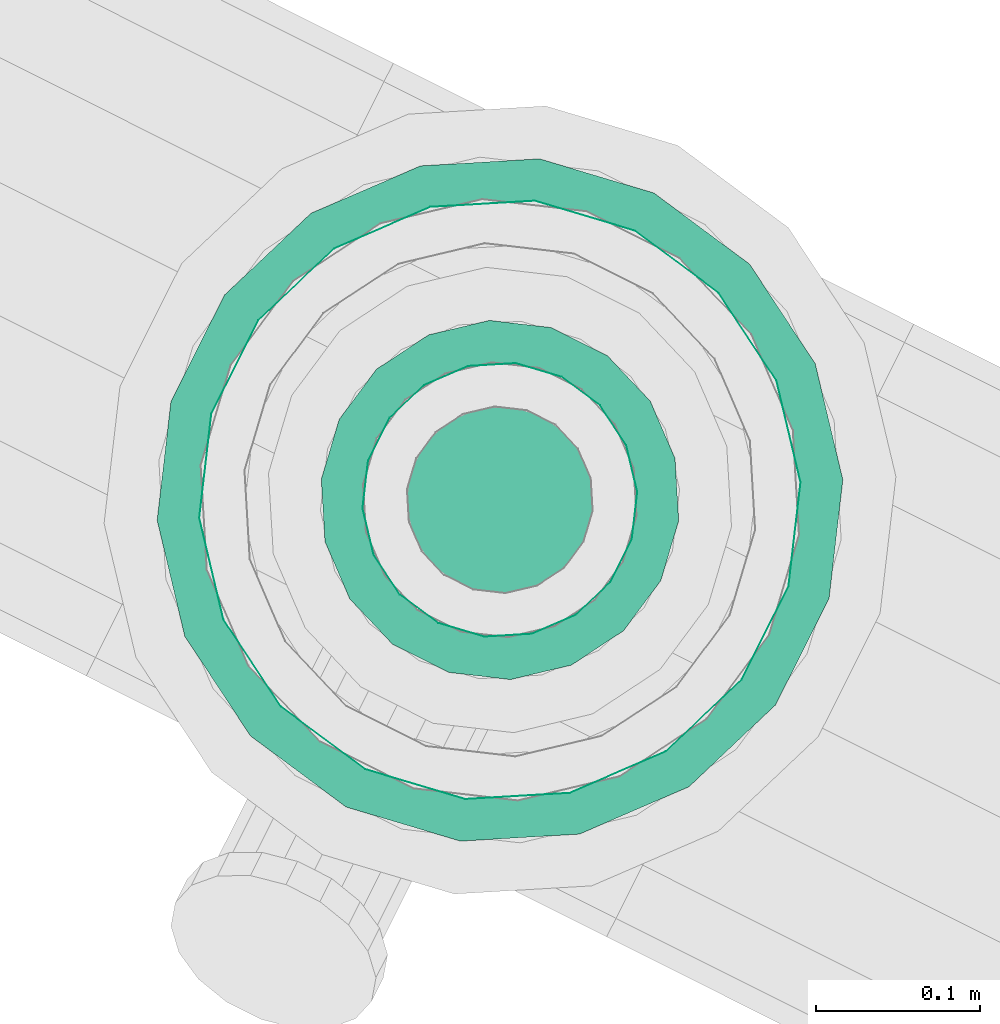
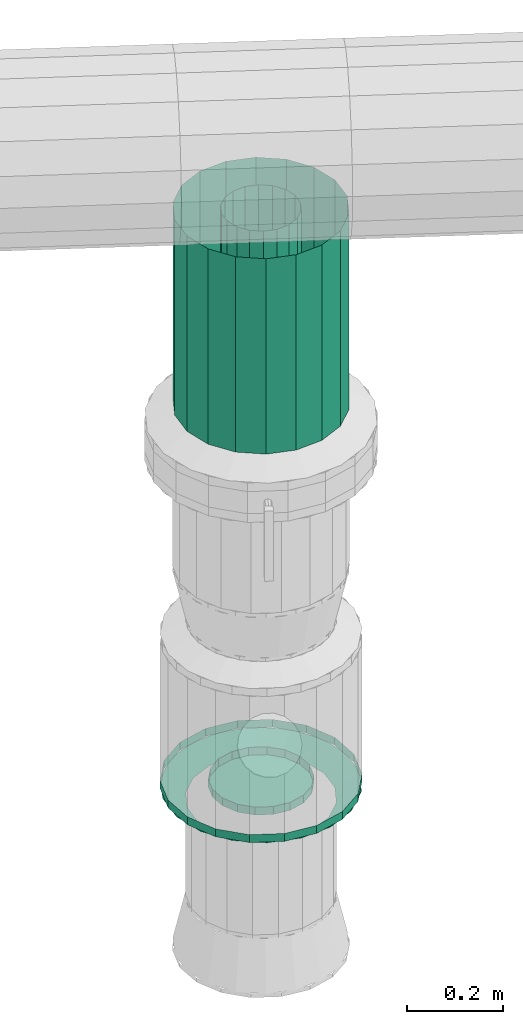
# One storey, part 61 of 152: 1 flow fitting, 1 flow segment.
"""IFC2X3 building model written with IfcOpenShell, lengths in metres."""

from ifc_helpers import new_model, si_unit, derived_unit, direction, frame, origin, place, context, subcontext, project, spatial, face_set, surface_model, source, transform, mapped, material, type_object, type_shapes, element, save


model = new_model("IFC2X3")

# Units and contexts
model_context = context("Model", 3, precision=5.2338327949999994e-05, world=origin(), true_north=direction((0.0, 1.0)))
body_context = subcontext(model_context, "Body", "Model", "MODEL_VIEW")
ifc_project = project(units=[si_unit("LENGTHUNIT", "METRE"), si_unit("AREAUNIT", "SQUARE_METRE"), si_unit("VOLUMEUNIT", "CUBIC_METRE"), si_unit("MASSUNIT", "GRAM", prefix="KILO"), si_unit("PLANEANGLEUNIT", "RADIAN"), derived_unit("THERMALTRANSMITTANCEUNIT", [(si_unit("MASSUNIT", "GRAM", prefix="KILO"), 1), (si_unit("THERMODYNAMICTEMPERATUREUNIT", "KELVIN"), -1), (si_unit("TIMEUNIT", "SECOND"), -3)])], contexts=[model_context])

# Site, building, storey
site_placement = place(None, frame((0.0, 0.0, 0.0), z_axis=(0.0, 0.0, 1.0), x_axis=(0.8939966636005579, -0.4480736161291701, 0.0)))
site = spatial("IfcSite", under=ifc_project, at=site_placement, Name="Default", CompositionType="ELEMENT")
building_placement = place(site_placement, origin())
building = spatial("IfcBuilding", under=site, at=building_placement, CompositionType="ELEMENT")
storey_placement = place(building_placement, frame((0.0, 0.0, 2.7499999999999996)))
storey = spatial("IfcBuildingStorey", under=building, at=storey_placement, Name="1. Obergeschoss", CompositionType="ELEMENT", Elevation=2.7499999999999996)

# Flow fitting
ifc_material = material(Name="IfcSurfaceStyle #1741")
distribution_element_type_1 = type_object("IfcDistributionElementType", Name="Flansch 614520:Flansch 614520", material=ifc_material)
shared_shape_1 = source(origin(), body_context, "Body", "SurfaceModel", [
    surface_model("IfcFaceBasedSurfaceModel", [(25.43985543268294, 8.402565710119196, 3.461870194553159), (25.459401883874, 8.406012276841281, 3.461870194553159), (25.462257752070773, 8.398165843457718, 3.493870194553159), (25.43985543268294, 8.394215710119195, 3.493870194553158), (25.47659074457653, 8.415936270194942, 3.4618701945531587), (25.48195802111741, 8.409539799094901, 3.493870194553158), (25.48934878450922, 8.431140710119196, 3.4618701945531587), (25.496580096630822, 8.426965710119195, 3.4938701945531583), (25.4961371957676, 8.44979171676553, 3.461870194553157), (25.504360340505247, 8.44834175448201, 3.4938701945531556), (25.496137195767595, 8.469639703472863, 3.461870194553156), (25.504360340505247, 8.471089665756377, 3.493870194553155), (25.48934878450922, 8.488290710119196, 3.4618701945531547), (25.496580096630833, 8.492465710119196, 3.4938701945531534), (25.476590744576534, 8.503495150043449, 3.461870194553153), (25.481958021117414, 8.509891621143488, 3.493870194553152), (25.459401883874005, 8.51341914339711, 3.4618701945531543), (25.462257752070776, 8.521265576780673, 3.493870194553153), (25.439855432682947, 8.516865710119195, 3.4618701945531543), (25.439855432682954, 8.525215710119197, 3.493870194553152), (25.403120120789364, 8.50349515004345, 3.4618701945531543), (25.390362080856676, 8.4882907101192, 3.4618701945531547), (25.38313076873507, 8.492465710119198, 3.4938701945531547), (25.39775284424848, 8.509891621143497, 3.4938701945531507), (25.3835736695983, 8.469639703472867, 3.4618701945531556), (25.37535052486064, 8.471089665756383, 3.4938701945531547), (25.3835736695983, 8.449791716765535, 3.4618701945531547), (25.375350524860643, 8.448341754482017, 3.4938701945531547), (25.390362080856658, 8.431140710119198, 3.4618701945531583), (25.383130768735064, 8.4269657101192, 3.493870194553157), (25.40312012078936, 8.415936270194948, 3.4618701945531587), (25.397752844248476, 8.409539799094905, 3.493870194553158), (25.42030898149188, 8.406012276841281, 3.4618701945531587), (25.417453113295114, 8.398165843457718, 3.4938701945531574), (25.329855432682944, 8.459715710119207, 3.4938701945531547), (25.336489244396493, 8.422093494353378, 3.493870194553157), (25.336489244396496, 8.422093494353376, 3.5138701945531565), (25.329855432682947, 8.4597157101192, 3.5138701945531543), (25.355590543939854, 8.38900907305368, 3.493870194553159), (25.355590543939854, 8.389009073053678, 3.5138701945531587), (25.38485543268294, 8.36445291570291, 3.49387019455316), (25.38485543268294, 8.364452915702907, 3.51387019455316), (25.420754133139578, 8.351386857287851, 3.493870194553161), (25.420754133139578, 8.351386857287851, 3.513870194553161), (25.45895673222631, 8.351386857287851, 3.493870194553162), (25.45895673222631, 8.351386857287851, 3.513870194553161), (25.494855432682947, 8.364452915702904, 3.4938701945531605), (25.494855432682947, 8.364452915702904, 3.513870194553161), (25.52412032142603, 8.389009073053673, 3.4938701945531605), (25.524120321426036, 8.389009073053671, 3.51387019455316), (25.543221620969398, 8.42209349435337, 3.493870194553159), (25.543221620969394, 8.422093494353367, 3.5138701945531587), (25.54985543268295, 8.459715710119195, 3.493870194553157), (25.54985543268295, 8.45971571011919, 3.513870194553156), (25.5432216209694, 8.49733792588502, 3.4938701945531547), (25.5432216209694, 8.497337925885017, 3.5138701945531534), (25.52412032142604, 8.530422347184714, 3.4938701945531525), (25.52412032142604, 8.530422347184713, 3.513870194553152), (25.49485543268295, 8.554978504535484, 3.4938701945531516), (25.494855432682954, 8.554978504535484, 3.5138701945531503), (25.458956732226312, 8.568044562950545, 3.4938701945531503), (25.458956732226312, 8.568044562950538, 3.513870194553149), (25.42075413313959, 8.568044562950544, 3.49387019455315), (25.42075413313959, 8.56804456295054, 3.513870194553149), (25.384855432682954, 8.55497850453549, 3.49387019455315), (25.384855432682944, 8.554978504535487, 3.513870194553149), (25.35559054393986, 8.530422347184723, 3.4938701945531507), (25.355590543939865, 8.530422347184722, 3.5138701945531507), (25.336489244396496, 8.497337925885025, 3.4938701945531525), (25.336489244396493, 8.497337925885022, 3.513870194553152), (25.439855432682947, 8.459715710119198, 3.493870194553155), (25.439855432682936, 8.302565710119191, 3.461870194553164), (25.493603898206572, 8.312043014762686, 3.4618701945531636), (25.51167966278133, 8.26238025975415, 3.4938701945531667), (25.439855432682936, 8.249715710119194, 3.493870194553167), (25.540869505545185, 8.339331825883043, 3.4618701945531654), (25.574840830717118, 8.298846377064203, 3.493870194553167), (25.57595132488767, 8.38114071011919, 3.461870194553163), (25.621720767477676, 8.354715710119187, 3.493870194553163), (25.594617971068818, 8.432426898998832, 3.461870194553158), (25.64666506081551, 8.423249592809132, 3.4938701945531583), (25.594617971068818, 8.48700452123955, 3.461870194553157), (25.64666506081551, 8.496181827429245, 3.4938701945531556), (25.575951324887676, 8.538290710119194, 3.461870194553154), (25.621720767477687, 8.564715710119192, 3.4938701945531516), (25.54086950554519, 8.580099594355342, 3.461870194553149), (25.57484083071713, 8.62058504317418, 3.493870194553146), (25.493603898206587, 8.607388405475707, 3.461870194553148), (25.511679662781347, 8.65705116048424, 3.4938701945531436), (25.43985543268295, 8.616865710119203, 3.461870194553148), (25.439855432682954, 8.669715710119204, 3.4938701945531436), (25.38610696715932, 8.607388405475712, 3.4618701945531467), (25.36803120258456, 8.657051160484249, 3.493870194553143), (25.33884135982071, 8.580099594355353, 3.4618701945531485), (25.304870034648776, 8.620585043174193, 3.4938701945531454), (25.30375954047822, 8.538290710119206, 3.461870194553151), (25.257990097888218, 8.564715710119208, 3.493870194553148), (25.28509289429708, 8.487004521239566, 3.461870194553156), (25.233045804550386, 8.496181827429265, 3.4938701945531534), (25.28509289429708, 8.432426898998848, 3.4618701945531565), (25.233045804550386, 8.42324959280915, 3.493870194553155), (25.303759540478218, 8.381140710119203, 3.4618701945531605), (25.257990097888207, 8.354715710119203, 3.4938701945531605), (25.3388413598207, 8.339331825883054, 3.4618701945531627), (25.30487003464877, 8.298846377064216, 3.493870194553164), (25.386106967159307, 8.312043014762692, 3.4618701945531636), (25.368031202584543, 8.262380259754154, 3.493870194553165), (25.229855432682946, 8.459715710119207, 3.4938701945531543), (25.242519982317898, 8.387891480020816, 3.4938701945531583), (25.242519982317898, 8.38789148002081, 3.513870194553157), (25.229855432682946, 8.459715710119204, 3.5138701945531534), (25.27898609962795, 8.324730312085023, 3.493870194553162), (25.278986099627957, 8.324730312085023, 3.513870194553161), (25.334855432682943, 8.277850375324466, 3.493870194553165), (25.334855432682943, 8.277850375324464, 3.5138701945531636), (25.403389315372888, 8.25290608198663, 3.4938701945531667), (25.403389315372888, 8.25290608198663, 3.5138701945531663), (25.476321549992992, 8.252906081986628, 3.4938701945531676), (25.476321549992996, 8.252906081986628, 3.5138701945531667), (25.544855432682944, 8.277850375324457, 3.4938701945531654), (25.544855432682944, 8.277850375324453, 3.5138701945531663), (25.60072476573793, 8.324730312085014, 3.493870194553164), (25.60072476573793, 8.324730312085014, 3.513870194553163), (25.637190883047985, 8.387891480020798, 3.493870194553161), (25.637190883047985, 8.387891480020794, 3.513870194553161), (25.649855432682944, 8.459715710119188, 3.493870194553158), (25.649855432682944, 8.459715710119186, 3.5138701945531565), (25.637190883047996, 8.53153994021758, 3.4938701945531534), (25.63719088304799, 8.53153994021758, 3.513870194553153), (25.600724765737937, 8.594701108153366, 3.4938701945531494), (25.60072476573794, 8.594701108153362, 3.513870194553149), (25.54485543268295, 8.641581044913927, 3.4938701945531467), (25.54485543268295, 8.641581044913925, 3.5138701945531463), (25.476321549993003, 8.666525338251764, 3.4938701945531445), (25.476321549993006, 8.666525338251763, 3.513870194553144), (25.403389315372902, 8.666525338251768, 3.4938701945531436), (25.403389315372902, 8.666525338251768, 3.5138701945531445), (25.334855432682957, 8.64158104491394, 3.493870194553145), (25.334855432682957, 8.64158104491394, 3.513870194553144), (25.278986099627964, 8.594701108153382, 3.493870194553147), (25.27898609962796, 8.594701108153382, 3.5138701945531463), (25.242519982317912, 8.531539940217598, 3.4938701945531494), (25.242519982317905, 8.531539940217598, 3.5138701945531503), (25.420308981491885, 8.513419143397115, 3.461870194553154), (25.41745311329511, 8.521265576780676, 3.4938701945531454)], [face_set([[[0, 1, 2, 3]], [[1, 4, 5, 2]], [[4, 6, 7, 5]], [[6, 8, 9, 7]], [[8, 10, 11, 9]], [[10, 12, 13, 11]], [[12, 14, 15, 13]], [[14, 16, 17, 15]], [[16, 18, 19, 17]], [[20, 21, 22, 23]], [[21, 24, 25, 22]], [[24, 26, 27, 25]], [[26, 28, 29, 27]], [[28, 30, 31, 29]], [[30, 32, 33, 31]], [[32, 0, 3, 33]], [[34, 35, 36, 37]], [[35, 38, 39, 36]], [[38, 40, 41, 39]], [[40, 42, 43, 41]], [[42, 44, 45, 43]], [[44, 46, 47, 45]], [[46, 48, 49, 47]], [[48, 50, 51, 49]], [[50, 52, 53, 51]], [[52, 54, 55, 53]], [[54, 56, 57, 55]], [[56, 58, 59, 57]], [[58, 60, 61, 59]], [[60, 62, 63, 61]], [[62, 64, 65, 63]], [[64, 66, 67, 65]], [[66, 68, 69, 67]], [[68, 34, 37, 69]], [[70, 35, 34]], [[70, 38, 35]], [[70, 40, 38]], [[70, 42, 40]], [[70, 44, 42]], [[70, 46, 44]], [[70, 48, 46]], [[70, 50, 48]], [[70, 52, 50]], [[70, 54, 52]], [[70, 56, 54]], [[70, 58, 56]], [[70, 60, 58]], [[70, 62, 60]], [[70, 64, 62]], [[70, 66, 64]], [[70, 68, 66]], [[70, 34, 68]], [[71, 72, 73, 74]], [[72, 75, 76, 73]], [[75, 77, 78, 76]], [[77, 79, 80, 78]], [[79, 81, 82, 80]], [[81, 83, 84, 82]], [[83, 85, 86, 84]], [[85, 87, 88, 86]], [[87, 89, 90, 88]], [[89, 91, 92, 90]], [[91, 93, 94, 92]], [[93, 95, 96, 94]], [[95, 97, 98, 96]], [[97, 99, 100, 98]], [[99, 101, 102, 100]], [[101, 103, 104, 102]], [[103, 105, 106, 104]], [[105, 71, 74, 106]], [[107, 108, 109, 110]], [[108, 111, 112, 109]], [[111, 113, 114, 112]], [[113, 115, 116, 114]], [[115, 117, 118, 116]], [[117, 119, 120, 118]], [[119, 121, 122, 120]], [[121, 123, 124, 122]], [[123, 125, 126, 124]], [[125, 127, 128, 126]], [[127, 129, 130, 128]], [[129, 131, 132, 130]], [[131, 133, 134, 132]], [[133, 135, 136, 134]], [[135, 137, 138, 136]], [[137, 139, 140, 138]], [[139, 141, 142, 140]], [[141, 107, 110, 142]], [[18, 143, 144, 19]], [[143, 20, 23, 144]]])]),
])
type_shapes(distribution_element_type_1, [shared_shape_1])
flow_fitting_placement = place(storey_placement, frame((0.0, 0.0, -2.7499999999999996)))
element("IfcFlowFitting", 1, at=flow_fitting_placement, inside=storey, type_object=distribution_element_type_1, material=ifc_material, Name="Flansch", ObjectType="Flansch", context=body_context, shape_type="MappedRepresentation", body=[
    mapped(shared_shape_1, transform((0.0, 0.0, 0.0), scale=1.0)),
])

# Flow segment
distribution_element_type_2 = type_object("IfcDistributionElementType", Name="Stahlrohr nach DIN 2448 614582:Stahlrohr nach DIN 2448 614582", material=ifc_material)
shared_shape_2 = source(origin(), body_context, "Body", "SurfaceModel", [
    surface_model("IfcFaceBasedSurfaceModel", [(25.439855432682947, 8.37556571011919, 4.954997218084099), (25.41107443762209, 8.380640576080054, 4.954997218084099), (25.411074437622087, 8.380640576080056, 4.460183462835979), (25.43985543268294, 8.37556571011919, 4.460183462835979), (25.385764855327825, 8.395253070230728, 4.954997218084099), (25.385764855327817, 8.395253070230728, 4.460183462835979), (25.366979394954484, 8.417640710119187, 4.954997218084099), (25.366979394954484, 8.417640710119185, 4.460183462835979), (25.356983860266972, 8.44510321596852, 4.954997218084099), (25.35698386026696, 8.445103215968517, 4.460183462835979), (25.35698386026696, 8.474328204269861, 4.954997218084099), (25.35698386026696, 8.47432820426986, 4.460183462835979), (25.366979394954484, 8.501790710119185, 4.954997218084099), (25.366979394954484, 8.501790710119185, 4.460183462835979), (25.385764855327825, 8.524178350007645, 4.954997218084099), (25.385764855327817, 8.524178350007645, 4.460183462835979), (25.41107443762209, 8.538790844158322, 4.954997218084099), (25.411074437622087, 8.538790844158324, 4.460183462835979), (25.439855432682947, 8.543865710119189, 4.954997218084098), (25.439855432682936, 8.543865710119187, 4.460183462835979), (25.4686364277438, 8.53879084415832, 4.954997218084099), (25.4686364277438, 8.53879084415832, 4.460183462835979), (25.493946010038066, 8.52417835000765, 4.954997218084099), (25.493946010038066, 8.524178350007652, 4.460183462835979), (25.512731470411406, 8.50179071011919, 4.954997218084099), (25.512731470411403, 8.50179071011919, 4.460183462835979), (25.522727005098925, 8.474328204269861, 4.954997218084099), (25.522727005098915, 8.474328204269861, 4.460183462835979), (25.522727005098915, 8.445103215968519, 4.954997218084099), (25.522727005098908, 8.44510321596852, 4.460183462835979), (25.512731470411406, 8.417640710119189, 4.954997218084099), (25.512731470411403, 8.41764071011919, 4.460183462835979), (25.493946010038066, 8.395253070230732, 4.954997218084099), (25.493946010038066, 8.395253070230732, 4.460183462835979), (25.4686364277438, 8.38064057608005, 4.954997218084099), (25.468636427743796, 8.380640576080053, 4.460183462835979), (25.439855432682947, 8.275565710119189, 4.954997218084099), (25.376872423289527, 8.286671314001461, 4.954997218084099), (25.37687242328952, 8.286671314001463, 4.460183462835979), (25.439855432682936, 8.275565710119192, 4.460183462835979), (25.32148609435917, 8.318648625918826, 4.954997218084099), (25.321486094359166, 8.318648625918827, 4.460183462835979), (25.28037685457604, 8.367640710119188, 4.954997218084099), (25.28037685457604, 8.367640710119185, 4.460183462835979), (25.258503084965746, 8.427738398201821, 4.954997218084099), (25.258503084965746, 8.427738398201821, 4.460183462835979), (25.258503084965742, 8.491693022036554, 4.954997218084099), (25.25850308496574, 8.491693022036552, 4.460183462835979), (25.280376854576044, 8.551790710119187, 4.954997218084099), (25.28037685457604, 8.551790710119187, 4.460183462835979), (25.321486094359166, 8.600782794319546, 4.954997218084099), (25.32148609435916, 8.600782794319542, 4.460183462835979), (25.376872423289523, 8.632760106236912, 4.954997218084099), (25.376872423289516, 8.63276010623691, 4.460183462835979), (25.439855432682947, 8.64386571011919, 4.954997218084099), (25.439855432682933, 8.64386571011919, 4.460183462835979), (25.502838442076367, 8.632760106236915, 4.954997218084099), (25.50283844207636, 8.632760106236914, 4.460183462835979), (25.55822477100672, 8.600782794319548, 4.954997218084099), (25.558224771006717, 8.600782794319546, 4.460183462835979), (25.599334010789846, 8.551790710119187, 4.954997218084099), (25.599334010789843, 8.551790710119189, 4.460183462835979), (25.621207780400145, 8.491693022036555, 4.954997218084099), (25.621207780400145, 8.49169302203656, 4.460183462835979), (25.62120778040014, 8.427738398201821, 4.954997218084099), (25.62120778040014, 8.427738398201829, 4.460183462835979), (25.599334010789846, 8.36764071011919, 4.954997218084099), (25.599334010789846, 8.367640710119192, 4.460183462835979), (25.55822477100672, 8.318648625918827, 4.954997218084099), (25.55822477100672, 8.318648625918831, 4.460183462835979), (25.502838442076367, 8.286671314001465, 4.954997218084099), (25.502838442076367, 8.286671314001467, 4.460183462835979)], [face_set([[[0, 1, 2, 3]], [[1, 4, 5, 2]], [[4, 6, 7, 5]], [[6, 8, 9, 7]], [[8, 10, 11, 9]], [[10, 12, 13, 11]], [[12, 14, 15, 13]], [[14, 16, 17, 15]], [[16, 18, 19, 17]], [[18, 20, 21, 19]], [[20, 22, 23, 21]], [[22, 24, 25, 23]], [[24, 26, 27, 25]], [[26, 28, 29, 27]], [[28, 30, 31, 29]], [[30, 32, 33, 31]], [[32, 34, 35, 33]], [[34, 0, 3, 35]], [[36, 37, 38, 39]], [[37, 40, 41, 38]], [[40, 42, 43, 41]], [[42, 44, 45, 43]], [[44, 46, 47, 45]], [[46, 48, 49, 47]], [[48, 50, 51, 49]], [[50, 52, 53, 51]], [[52, 54, 55, 53]], [[54, 56, 57, 55]], [[56, 58, 59, 57]], [[58, 60, 61, 59]], [[60, 62, 63, 61]], [[62, 64, 65, 63]], [[64, 66, 67, 65]], [[66, 68, 69, 67]], [[68, 70, 71, 69]], [[70, 36, 39, 71]]])]),
])
type_shapes(distribution_element_type_2, [shared_shape_2])
flow_segment_placement = place(storey_placement, frame((0.0, 0.0, -2.7499999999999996)))
element("IfcFlowSegment", 2, at=flow_segment_placement, inside=storey, type_object=distribution_element_type_2, material=ifc_material, Name="Stahlrohr nach DIN 2448", ObjectType="Stahlrohr nach DIN 2448", context=body_context, shape_type="MappedRepresentation", body=[
    mapped(shared_shape_2, transform((0.0, 0.0, 0.0), scale=1.0)),
])

save(model, "model.ifc")
